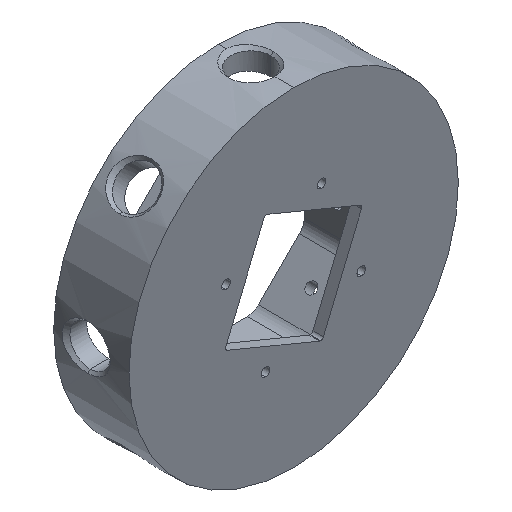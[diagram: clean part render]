
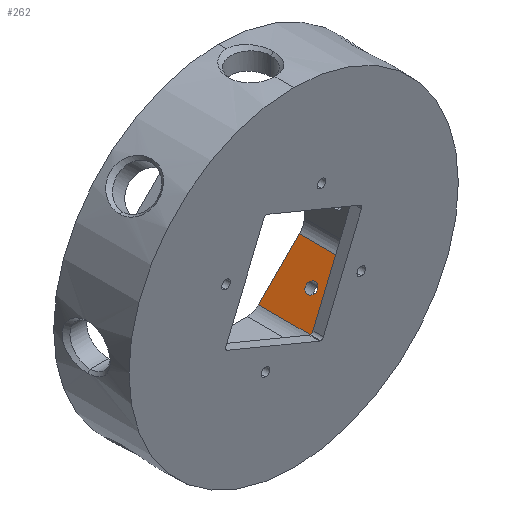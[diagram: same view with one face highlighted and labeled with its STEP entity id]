
A CAD part, isometric view. The second image highlights one B-rep face of the part: STEP entity #262.
In plain terms, the highlighted planar face has unit normal (-0.707, 0, 0.707).
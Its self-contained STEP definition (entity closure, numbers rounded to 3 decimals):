
#85 = ORIENTED_EDGE ( 'NONE', *, *, #3352, .T. ) ;
#95 = CARTESIAN_POINT ( 'NONE',  ( 77.607, -221.931, -38.359 ) ) ;
#262 = ADVANCED_FACE ( 'NONE', ( #4560, #450 ), #7588, .F. ) ;
#311 = LINE ( 'NONE', #2006, #596 ) ;
#394 = AXIS2_PLACEMENT_3D ( 'NONE', #1747, #2369, #1782 ) ;
#450 = FACE_OUTER_BOUND ( 'NONE', #2190, .T. ) ;
#498 = VERTEX_POINT ( 'NONE', #756 ) ;
#596 = VECTOR ( 'NONE', #1581, 1000. ) ;
#670 = CARTESIAN_POINT ( 'NONE',  ( 77.607, 10., -38.359 ) ) ;
#756 = CARTESIAN_POINT ( 'NONE',  ( 54.377, 41., -61.589 ) ) ;
#796 = DIRECTION ( 'NONE',  ( 0., 1., 0. ) ) ;
#826 = AXIS2_PLACEMENT_3D ( 'NONE', #4525, #7038, #1557 ) ;
#979 = EDGE_CURVE ( 'NONE', #498, #5723, #2292, .T. ) ;
#1232 = CARTESIAN_POINT ( 'NONE',  ( 77.607, 10., -38.359 ) ) ;
#1343 = CIRCLE ( 'NONE', #1990, 5.1 ) ;
#1536 = CARTESIAN_POINT ( 'NONE',  ( 77.607, 72., -38.359 ) ) ;
#1557 = DIRECTION ( 'NONE',  ( -0.707, 0., -0.707 ) ) ;
#1581 = DIRECTION ( 'NONE',  ( 0., 1., 0. ) ) ;
#1658 = CARTESIAN_POINT ( 'NONE',  ( 38.359, 10., -77.607 ) ) ;
#1661 = DIRECTION ( 'NONE',  ( -0.707, 0., -0.707 ) ) ;
#1747 = CARTESIAN_POINT ( 'NONE',  ( 57.983, 41., -57.983 ) ) ;
#1782 = DIRECTION ( 'NONE',  ( -0.707, 0., -0.707 ) ) ;
#1833 = VECTOR ( 'NONE', #796, 1000. ) ;
#1990 = AXIS2_PLACEMENT_3D ( 'NONE', #6693, #5962, #3637 ) ;
#2006 = CARTESIAN_POINT ( 'NONE',  ( 38.359, -221.931, -77.607 ) ) ;
#2146 = ORIENTED_EDGE ( 'NONE', *, *, #979, .F. ) ;
#2190 = EDGE_LOOP ( 'NONE', ( #5006, #3748, #6329, #85 ) ) ;
#2210 = ORIENTED_EDGE ( 'NONE', *, *, #6671, .F. ) ;
#2292 = CIRCLE ( 'NONE', #394, 5.1 ) ;
#2322 = VECTOR ( 'NONE', #2530, 1000. ) ;
#2369 = DIRECTION ( 'NONE',  ( -0.707, 0., 0.707 ) ) ;
#2484 = EDGE_CURVE ( 'NONE', #6022, #5760, #2570, .T. ) ;
#2530 = DIRECTION ( 'NONE',  ( 0.707, 0., 0.707 ) ) ;
#2570 = LINE ( 'NONE', #1232, #2322 ) ;
#2925 = EDGE_LOOP ( 'NONE', ( #2146, #2210 ) ) ;
#3181 = CARTESIAN_POINT ( 'NONE',  ( 38.359, 72., -77.607 ) ) ;
#3352 = EDGE_CURVE ( 'NONE', #5760, #7176, #7388, .T. ) ;
#3564 = CARTESIAN_POINT ( 'NONE',  ( 77.607, 72., -38.359 ) ) ;
#3637 = DIRECTION ( 'NONE',  ( -0.707, 0., -0.707 ) ) ;
#3748 = ORIENTED_EDGE ( 'NONE', *, *, #7269, .F. ) ;
#3889 = EDGE_CURVE ( 'NONE', #7176, #7179, #4661, .T. ) ;
#4525 = CARTESIAN_POINT ( 'NONE',  ( 77.607, -221.931, -38.359 ) ) ;
#4560 = FACE_BOUND ( 'NONE', #2925, .T. ) ;
#4661 = LINE ( 'NONE', #3564, #6623 ) ;
#5006 = ORIENTED_EDGE ( 'NONE', *, *, #3889, .T. ) ;
#5267 = CARTESIAN_POINT ( 'NONE',  ( 61.589, 41., -54.377 ) ) ;
#5723 = VERTEX_POINT ( 'NONE', #5267 ) ;
#5760 = VERTEX_POINT ( 'NONE', #670 ) ;
#5962 = DIRECTION ( 'NONE',  ( -0.707, 0., 0.707 ) ) ;
#6022 = VERTEX_POINT ( 'NONE', #1658 ) ;
#6329 = ORIENTED_EDGE ( 'NONE', *, *, #2484, .T. ) ;
#6623 = VECTOR ( 'NONE', #1661, 1000. ) ;
#6671 = EDGE_CURVE ( 'NONE', #5723, #498, #1343, .T. ) ;
#6693 = CARTESIAN_POINT ( 'NONE',  ( 57.983, 41., -57.983 ) ) ;
#7038 = DIRECTION ( 'NONE',  ( 0.707, 0., -0.707 ) ) ;
#7176 = VERTEX_POINT ( 'NONE', #1536 ) ;
#7179 = VERTEX_POINT ( 'NONE', #3181 ) ;
#7269 = EDGE_CURVE ( 'NONE', #6022, #7179, #311, .T. ) ;
#7388 = LINE ( 'NONE', #95, #1833 ) ;
#7588 = PLANE ( 'NONE',  #826 ) ;
